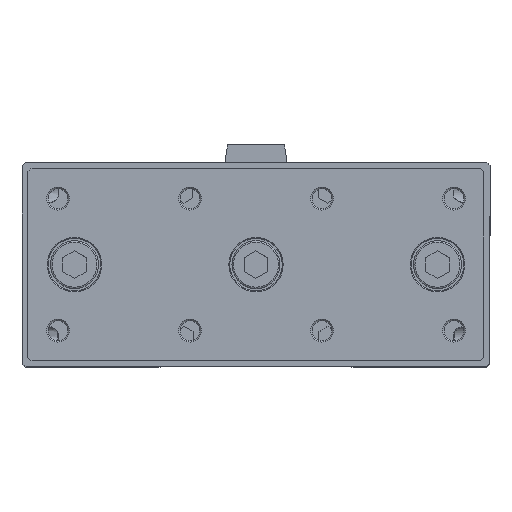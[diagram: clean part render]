
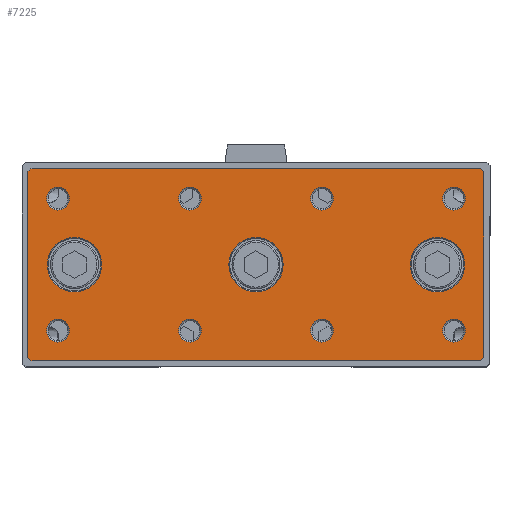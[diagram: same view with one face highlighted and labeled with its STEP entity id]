
A CAD part, top view. The second image highlights one B-rep face of the part: STEP entity #7225.
In plain terms, the highlighted planar face has unit normal (0, 0, 1).
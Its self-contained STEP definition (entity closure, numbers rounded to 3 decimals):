
#6983=CARTESIAN_POINT('',(-82.057,-30.206,121.6));
#6984=VERTEX_POINT('',#6983);
#6985=CARTESIAN_POINT('',(-83.057,-29.206,121.6));
#6986=VERTEX_POINT('',#6985);
#6987=CARTESIAN_POINT('',(-82.057,-30.206,121.6));
#6988=DIRECTION('',(-0.707,0.707,0.0));
#6989=VECTOR('',#6988,1.414);
#6990=LINE('',#6987,#6989);
#6991=EDGE_CURVE('',#6984,#6986,#6990,.T.);
#7024=CARTESIAN_POINT('',(-83.057,32.794,121.6));
#7025=VERTEX_POINT('',#7024);
#7026=CARTESIAN_POINT('',(-83.057,-29.206,121.6));
#7027=DIRECTION('',(0.0,1.0,0.0));
#7028=VECTOR('',#7027,62.);
#7029=LINE('',#7026,#7028);
#7030=EDGE_CURVE('',#6986,#7025,#7029,.T.);
#7049=CARTESIAN_POINT('',(-7.057,1.794,121.6));
#7050=DIRECTION('',(0.0,0.0,1.0));
#7051=DIRECTION('',(1.0,0.0,0.0));
#7052=AXIS2_PLACEMENT_3D('',#7049,#7050,#7051);
#7053=PLANE('',#7052);
#7054=ORIENTED_EDGE('',*,*,#6991,.F.);
#7055=CARTESIAN_POINT('',(67.943,-30.206,121.6));
#7056=VERTEX_POINT('',#7055);
#7057=CARTESIAN_POINT('',(67.943,-30.206,121.6));
#7058=DIRECTION('',(-1.0,0.0,0.0));
#7059=VECTOR('',#7058,150.0);
#7060=LINE('',#7057,#7059);
#7061=EDGE_CURVE('',#7056,#6984,#7060,.T.);
#7062=ORIENTED_EDGE('',*,*,#7061,.F.);
#7063=CARTESIAN_POINT('',(68.943,-29.206,121.6));
#7064=VERTEX_POINT('',#7063);
#7065=CARTESIAN_POINT('',(68.943,-29.206,121.6));
#7066=DIRECTION('',(-0.707,-0.707,0.0));
#7067=VECTOR('',#7066,1.414);
#7068=LINE('',#7065,#7067);
#7069=EDGE_CURVE('',#7064,#7056,#7068,.T.);
#7070=ORIENTED_EDGE('',*,*,#7069,.F.);
#7071=CARTESIAN_POINT('',(68.943,32.794,121.6));
#7072=VERTEX_POINT('',#7071);
#7073=CARTESIAN_POINT('',(68.943,32.794,121.6));
#7074=DIRECTION('',(0.0,-1.0,0.0));
#7075=VECTOR('',#7074,62.);
#7076=LINE('',#7073,#7075);
#7077=EDGE_CURVE('',#7072,#7064,#7076,.T.);
#7078=ORIENTED_EDGE('',*,*,#7077,.F.);
#7079=CARTESIAN_POINT('',(67.943,33.794,121.6));
#7080=VERTEX_POINT('',#7079);
#7081=CARTESIAN_POINT('',(67.943,33.794,121.6));
#7082=DIRECTION('',(0.707,-0.707,0.0));
#7083=VECTOR('',#7082,1.414);
#7084=LINE('',#7081,#7083);
#7085=EDGE_CURVE('',#7080,#7072,#7084,.T.);
#7086=ORIENTED_EDGE('',*,*,#7085,.F.);
#7087=CARTESIAN_POINT('',(-82.057,33.794,121.6));
#7088=VERTEX_POINT('',#7087);
#7089=CARTESIAN_POINT('',(-82.057,33.794,121.6));
#7090=DIRECTION('',(1.0,0.0,0.0));
#7091=VECTOR('',#7090,150.);
#7092=LINE('',#7089,#7091);
#7093=EDGE_CURVE('',#7088,#7080,#7092,.T.);
#7094=ORIENTED_EDGE('',*,*,#7093,.F.);
#7095=CARTESIAN_POINT('',(-83.057,32.794,121.6));
#7096=DIRECTION('',(0.707,0.707,0.0));
#7097=VECTOR('',#7096,1.414);
#7098=LINE('',#7095,#7097);
#7099=EDGE_CURVE('',#7025,#7088,#7098,.T.);
#7100=ORIENTED_EDGE('',*,*,#7099,.F.);
#7101=ORIENTED_EDGE('',*,*,#7030,.F.);
#7102=EDGE_LOOP('',(#7054,#7062,#7070,#7078,#7086,#7094,#7100,#7101));
#7103=FACE_OUTER_BOUND('',#7102,.T.);
#7104=CARTESIAN_POINT('',(-58.507,1.794,121.6));
#7105=VERTEX_POINT('',#7104);
#7106=CARTESIAN_POINT('',(-67.557,1.794,121.6));
#7107=DIRECTION('',(0.0,0.0,1.0));
#7108=DIRECTION('',(-1.0,0.0,0.0));
#7109=AXIS2_PLACEMENT_3D('',#7106,#7107,#7108);
#7110=CIRCLE('',#7109,9.05);
#7111=EDGE_CURVE('',#7105,#7105,#7110,.T.);
#7112=ORIENTED_EDGE('',*,*,#7111,.F.);
#7113=EDGE_LOOP('',(#7112));
#7114=FACE_BOUND('',#7113,.T.);
#7115=CARTESIAN_POINT('',(62.766,-20.206,121.6));
#7116=VERTEX_POINT('',#7115);
#7117=CARTESIAN_POINT('',(58.943,-20.206,121.6));
#7118=DIRECTION('',(0.0,0.0,1.0));
#7119=DIRECTION('',(-1.0,0.0,0.0));
#7120=AXIS2_PLACEMENT_3D('',#7117,#7118,#7119);
#7121=CIRCLE('',#7120,3.823);
#7122=EDGE_CURVE('',#7116,#7116,#7121,.T.);
#7123=ORIENTED_EDGE('',*,*,#7122,.F.);
#7124=EDGE_LOOP('',(#7123));
#7125=FACE_BOUND('',#7124,.T.);
#7126=CARTESIAN_POINT('',(-69.234,-20.206,121.6));
#7127=VERTEX_POINT('',#7126);
#7128=CARTESIAN_POINT('',(-73.057,-20.206,121.6));
#7129=DIRECTION('',(0.0,0.0,1.0));
#7130=DIRECTION('',(-1.0,0.0,0.0));
#7131=AXIS2_PLACEMENT_3D('',#7128,#7129,#7130);
#7132=CIRCLE('',#7131,3.823);
#7133=EDGE_CURVE('',#7127,#7127,#7132,.T.);
#7134=ORIENTED_EDGE('',*,*,#7133,.F.);
#7135=EDGE_LOOP('',(#7134));
#7136=FACE_BOUND('',#7135,.T.);
#7137=CARTESIAN_POINT('',(62.766,23.794,121.6));
#7138=VERTEX_POINT('',#7137);
#7139=CARTESIAN_POINT('',(58.943,23.794,121.6));
#7140=DIRECTION('',(0.0,0.0,1.0));
#7141=DIRECTION('',(-1.0,0.0,0.0));
#7142=AXIS2_PLACEMENT_3D('',#7139,#7140,#7141);
#7143=CIRCLE('',#7142,3.823);
#7144=EDGE_CURVE('',#7138,#7138,#7143,.T.);
#7145=ORIENTED_EDGE('',*,*,#7144,.F.);
#7146=EDGE_LOOP('',(#7145));
#7147=FACE_BOUND('',#7146,.T.);
#7148=CARTESIAN_POINT('',(-69.234,23.794,121.6));
#7149=VERTEX_POINT('',#7148);
#7150=CARTESIAN_POINT('',(-73.057,23.794,121.6));
#7151=DIRECTION('',(0.0,0.0,1.0));
#7152=DIRECTION('',(-1.0,0.0,0.0));
#7153=AXIS2_PLACEMENT_3D('',#7150,#7151,#7152);
#7154=CIRCLE('',#7153,3.823);
#7155=EDGE_CURVE('',#7149,#7149,#7154,.T.);
#7156=ORIENTED_EDGE('',*,*,#7155,.F.);
#7157=EDGE_LOOP('',(#7156));
#7158=FACE_BOUND('',#7157,.T.);
#7159=CARTESIAN_POINT('',(18.766,-20.206,121.6));
#7160=VERTEX_POINT('',#7159);
#7161=CARTESIAN_POINT('',(14.943,-20.206,121.6));
#7162=DIRECTION('',(0.0,0.0,1.0));
#7163=DIRECTION('',(-1.0,0.0,0.0));
#7164=AXIS2_PLACEMENT_3D('',#7161,#7162,#7163);
#7165=CIRCLE('',#7164,3.824);
#7166=EDGE_CURVE('',#7160,#7160,#7165,.T.);
#7167=ORIENTED_EDGE('',*,*,#7166,.F.);
#7168=EDGE_LOOP('',(#7167));
#7169=FACE_BOUND('',#7168,.T.);
#7170=CARTESIAN_POINT('',(-25.234,-20.206,121.6));
#7171=VERTEX_POINT('',#7170);
#7172=CARTESIAN_POINT('',(-29.057,-20.206,121.6));
#7173=DIRECTION('',(0.0,0.0,1.0));
#7174=DIRECTION('',(-1.0,0.0,0.0));
#7175=AXIS2_PLACEMENT_3D('',#7172,#7173,#7174);
#7176=CIRCLE('',#7175,3.823);
#7177=EDGE_CURVE('',#7171,#7171,#7176,.T.);
#7178=ORIENTED_EDGE('',*,*,#7177,.F.);
#7179=EDGE_LOOP('',(#7178));
#7180=FACE_BOUND('',#7179,.T.);
#7181=CARTESIAN_POINT('',(18.766,23.794,121.6));
#7182=VERTEX_POINT('',#7181);
#7183=CARTESIAN_POINT('',(14.943,23.794,121.6));
#7184=DIRECTION('',(0.0,0.0,1.0));
#7185=DIRECTION('',(-1.0,0.0,0.0));
#7186=AXIS2_PLACEMENT_3D('',#7183,#7184,#7185);
#7187=CIRCLE('',#7186,3.824);
#7188=EDGE_CURVE('',#7182,#7182,#7187,.T.);
#7189=ORIENTED_EDGE('',*,*,#7188,.F.);
#7190=EDGE_LOOP('',(#7189));
#7191=FACE_BOUND('',#7190,.T.);
#7192=CARTESIAN_POINT('',(-25.234,23.794,121.6));
#7193=VERTEX_POINT('',#7192);
#7194=CARTESIAN_POINT('',(-29.057,23.794,121.6));
#7195=DIRECTION('',(0.0,0.0,1.0));
#7196=DIRECTION('',(-1.0,0.0,0.0));
#7197=AXIS2_PLACEMENT_3D('',#7194,#7195,#7196);
#7198=CIRCLE('',#7197,3.823);
#7199=EDGE_CURVE('',#7193,#7193,#7198,.T.);
#7200=ORIENTED_EDGE('',*,*,#7199,.F.);
#7201=EDGE_LOOP('',(#7200));
#7202=FACE_BOUND('',#7201,.T.);
#7203=CARTESIAN_POINT('',(62.493,1.794,121.6));
#7204=VERTEX_POINT('',#7203);
#7205=CARTESIAN_POINT('',(53.443,1.794,121.6));
#7206=DIRECTION('',(0.0,0.0,1.0));
#7207=DIRECTION('',(-1.0,0.0,0.0));
#7208=AXIS2_PLACEMENT_3D('',#7205,#7206,#7207);
#7209=CIRCLE('',#7208,9.05);
#7210=EDGE_CURVE('',#7204,#7204,#7209,.T.);
#7211=ORIENTED_EDGE('',*,*,#7210,.F.);
#7212=EDGE_LOOP('',(#7211));
#7213=FACE_BOUND('',#7212,.T.);
#7214=CARTESIAN_POINT('',(1.993,1.794,121.6));
#7215=VERTEX_POINT('',#7214);
#7216=CARTESIAN_POINT('',(-7.057,1.794,121.6));
#7217=DIRECTION('',(0.0,0.0,1.0));
#7218=DIRECTION('',(-1.0,0.0,0.0));
#7219=AXIS2_PLACEMENT_3D('',#7216,#7217,#7218);
#7220=CIRCLE('',#7219,9.05);
#7221=EDGE_CURVE('',#7215,#7215,#7220,.T.);
#7222=ORIENTED_EDGE('',*,*,#7221,.F.);
#7223=EDGE_LOOP('',(#7222));
#7224=FACE_BOUND('',#7223,.T.);
#7225=ADVANCED_FACE('',(#7103,#7114,#7125,#7136,#7147,#7158,#7169,#7180,#7191,#7202,#7213,#7224),#7053,.T.);
